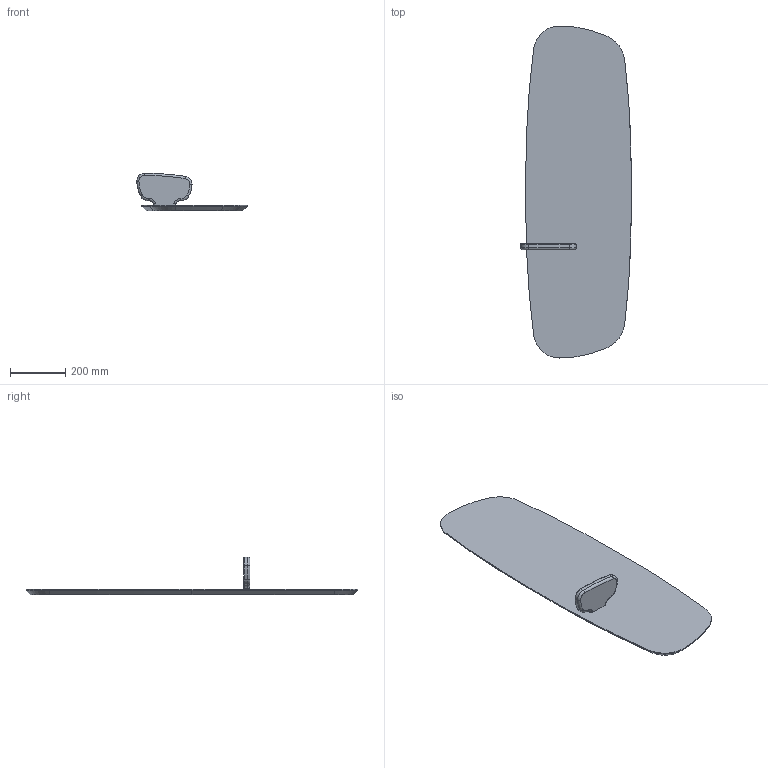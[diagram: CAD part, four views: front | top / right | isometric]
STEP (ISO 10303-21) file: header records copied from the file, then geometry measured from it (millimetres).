
FILE_DESCRIPTION (( 'STEP AP214' ), '1' );
FILE_NAME ('ESPEJO_DE_PARED.STEP', '2019-08-02T09:28:55', ( '' ), ( '' ), 'SwSTEP 2.0', 'SolidWorks 2016', '' );
FILE_SCHEMA (( 'AUTOMOTIVE_DESIGN' ));
Length unit declared in the file: millimetre
Products named in the file (6): ESPEJO; TOPE BANDEJA; TRASERA_DM_ESPEJO_PARED; ESPEJO_DE_PARED; BANDEJA_NOGAL; SOPORTE
Assembly tree (9 placements, depth 2):
  ESPEJO_DE_PARED
    TRASERA_DM_ESPEJO_PARED
    ESPEJO
    BANDEJA_NOGAL
    SOPORTE  x4
    TOPE BANDEJA  x2
Bounding box: 399.59 x 1200 x 136 mm (x, y, z)
Volume: 8131420.3 mm3; surface area: 1764763 mm2
Topology: 9 solids, 9 shells, 229 faces, 577 edges, 369 vertices
Faces by surface type: cylinder 108, plane 77, torus 32, cone 12
Entity records: 5090 total; most frequent: DIRECTION 956, CARTESIAN_POINT 828, ORIENTED_EDGE 782, AXIS2_PLACEMENT_3D 399, EDGE_CURVE 391, VERTEX_POINT 247, CIRCLE 227, EDGE_LOOP 186
